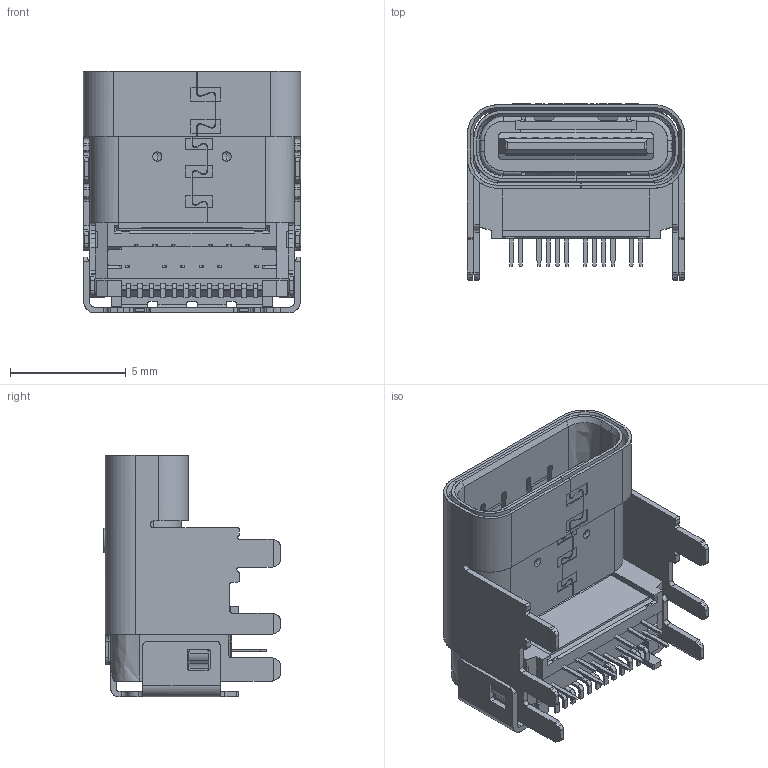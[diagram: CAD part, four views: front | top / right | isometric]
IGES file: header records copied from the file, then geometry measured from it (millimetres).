
Start section: SolidWorks IGES file using analytic representation for surfaces
Global section: file name: Z:\规格书系列\A品赞TYPE C\母座系列\GT-USB-7029\GT-USB-7029\GT-USB-7029.IGS; native system: SolidWorks 2021; preprocessor: SolidWorks 2021; author: Lenovo; date: 230301.142809; units: millimetre
Bounding box: 9.4 x 7.63 x 10.47 mm (x, y, z)
Surface area: 1100.1 mm2 (no closed solid volume)
Topology: 0 solids, 0 shells, 1563 faces, 11653 edges, 11637 vertices
Faces by surface type: bspline 1563
